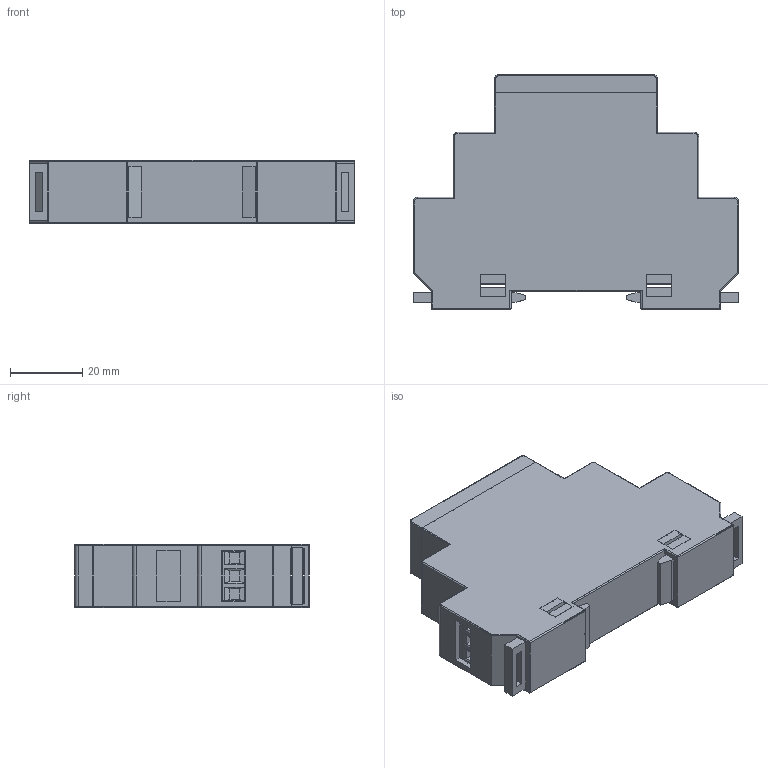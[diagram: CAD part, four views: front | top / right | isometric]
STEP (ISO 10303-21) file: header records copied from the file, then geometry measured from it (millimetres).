
FILE_DESCRIPTION (( 'STEP AP214' ), '1' );
FILE_NAME ('RPI-16-001-X230.step', '2014-08-19T08:09:16', ( '' ), ( '' ), 'SwSTEP 2.0', 'SolidWorks 2011', '' );
FILE_SCHEMA (( 'AUTOMOTIVE_DESIGN' ));
Length unit declared in the file: millimetre
Products named in the file (1): RPI-16-001-X230
Bounding box: 90 x 65 x 17.6 mm (x, y, z)
Volume: 17226.9 mm3; surface area: 45637 mm2
Topology: 8 solids, 8 shells, 972 faces, 2656 edges, 1684 vertices
Faces by surface type: plane 800, cylinder 116, torus 48, bspline 8
Entity records: 41649 total; most frequent: CARTESIAN_POINT 6077, ORIENTED_EDGE 5296, DIRECTION 4970, EDGE_CURVE 2648, LINE 2088, VECTOR 2088, VERTEX_POINT 1684, AXIS2_PLACEMENT_3D 1441
